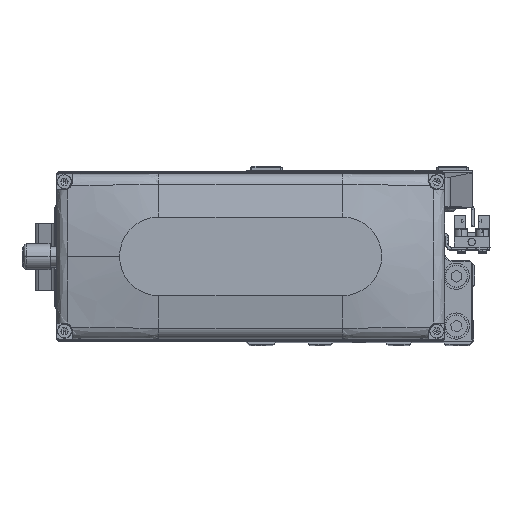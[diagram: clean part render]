
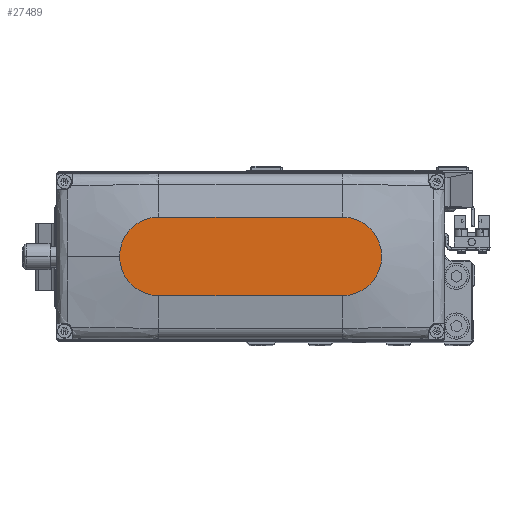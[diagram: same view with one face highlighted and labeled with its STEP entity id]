
A CAD part, top view. The second image highlights one B-rep face of the part: STEP entity #27489.
In plain terms, the highlighted planar face has unit normal (0, 0, 1).
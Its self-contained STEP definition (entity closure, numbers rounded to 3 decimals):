
#278 = EDGE_CURVE ( 'NONE', #8607, #15227, #15798, .T. ) ;
#917 = CARTESIAN_POINT ( 'NONE',  ( 35., 0., 35. ) ) ;
#1207 = CARTESIAN_POINT ( 'NONE',  ( 0., 0., 35. ) ) ;
#1289 = AXIS2_PLACEMENT_3D ( 'NONE', #1207, #15161, #29198 ) ;
#1343 = EDGE_CURVE ( 'NONE', #32943, #22976, #25420, .T. ) ;
#2487 = CARTESIAN_POINT ( 'NONE',  ( -35., -15., 35. ) ) ;
#2834 = CARTESIAN_POINT ( 'NONE',  ( 35., 0., 35. ) ) ;
#4517 = DIRECTION ( 'NONE',  ( -1., 0., 0. ) ) ;
#4547 = CARTESIAN_POINT ( 'NONE',  ( -35., -15., 35. ) ) ;
#5059 = VECTOR ( 'NONE', #16456, 1000. ) ;
#7523 = DIRECTION ( 'NONE',  ( 1., 0., 0. ) ) ;
#8607 = VERTEX_POINT ( 'NONE', #45314 ) ;
#10730 = CIRCLE ( 'NONE', #36439, 15. ) ;
#11920 = ORIENTED_EDGE ( 'NONE', *, *, #34921, .T. ) ;
#11929 = CARTESIAN_POINT ( 'NONE',  ( 35., 15., 35. ) ) ;
#13052 = CARTESIAN_POINT ( 'NONE',  ( -35., 15., 35. ) ) ;
#13483 = ORIENTED_EDGE ( 'NONE', *, *, #14830, .T. ) ;
#14830 = EDGE_CURVE ( 'NONE', #22976, #8607, #33965, .T. ) ;
#14871 = DIRECTION ( 'NONE',  ( 0., 0., 1. ) ) ;
#15161 = DIRECTION ( 'NONE',  ( 0., 0., 1. ) ) ;
#15227 = VERTEX_POINT ( 'NONE', #44436 ) ;
#15770 = AXIS2_PLACEMENT_3D ( 'NONE', #2834, #16821, #30863 ) ;
#15798 = CIRCLE ( 'NONE', #15770, 15. ) ;
#16456 = DIRECTION ( 'NONE',  ( 1., 0., 0. ) ) ;
#16821 = DIRECTION ( 'NONE',  ( 0., 0., 1. ) ) ;
#17304 = ORIENTED_EDGE ( 'NONE', *, *, #34459, .T. ) ;
#18137 = ORIENTED_EDGE ( 'NONE', *, *, #278, .T. ) ;
#18615 = FACE_OUTER_BOUND ( 'NONE', #29202, .T. ) ;
#18898 = VERTEX_POINT ( 'NONE', #11929 ) ;
#20313 = VECTOR ( 'NONE', #4517, 1000. ) ;
#21955 = LINE ( 'NONE', #35986, #20313 ) ;
#22976 = VERTEX_POINT ( 'NONE', #4547 ) ;
#24984 = CARTESIAN_POINT ( 'NONE',  ( -35., 0., 35. ) ) ;
#25392 = AXIS2_PLACEMENT_3D ( 'NONE', #24984, #39030, #7523 ) ;
#25420 = CIRCLE ( 'NONE', #25392, 15. ) ;
#27489 = ADVANCED_FACE ( 'NONE', ( #18615 ), #32644, .T. ) ;
#28903 = DIRECTION ( 'NONE',  ( 1., 0., 0. ) ) ;
#29198 = DIRECTION ( 'NONE',  ( 1., 0., 0. ) ) ;
#29202 = EDGE_LOOP ( 'NONE', ( #11920, #31543, #13483, #18137, #17304 ) ) ;
#30863 = DIRECTION ( 'NONE',  ( 1., 0., 0. ) ) ;
#31543 = ORIENTED_EDGE ( 'NONE', *, *, #1343, .T. ) ;
#32644 = PLANE ( 'NONE',  #1289 ) ;
#32943 = VERTEX_POINT ( 'NONE', #13052 ) ;
#33965 = LINE ( 'NONE', #2487, #5059 ) ;
#34459 = EDGE_CURVE ( 'NONE', #15227, #18898, #10730, .T. ) ;
#34921 = EDGE_CURVE ( 'NONE', #18898, #32943, #21955, .T. ) ;
#35986 = CARTESIAN_POINT ( 'NONE',  ( -35., 15., 35. ) ) ;
#36439 = AXIS2_PLACEMENT_3D ( 'NONE', #917, #14871, #28903 ) ;
#39030 = DIRECTION ( 'NONE',  ( 0., 0., 1. ) ) ;
#44436 = CARTESIAN_POINT ( 'NONE',  ( 50., 0., 35. ) ) ;
#45314 = CARTESIAN_POINT ( 'NONE',  ( 35., -15., 35. ) ) ;
